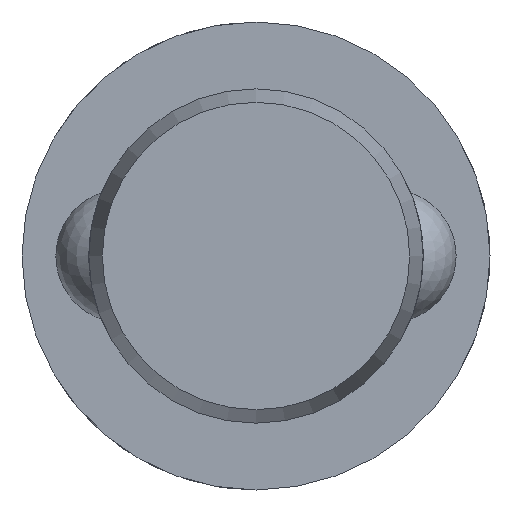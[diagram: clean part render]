
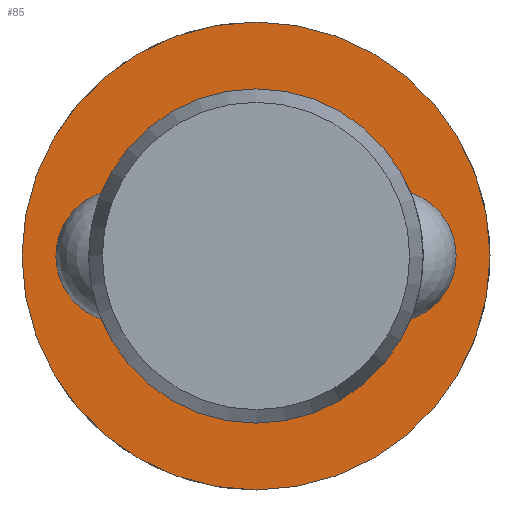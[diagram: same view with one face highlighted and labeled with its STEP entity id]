
A CAD part, left-side view. The second image highlights one B-rep face of the part: STEP entity #85.
In plain terms, the highlighted planar face has unit normal (-1, 0, 0).
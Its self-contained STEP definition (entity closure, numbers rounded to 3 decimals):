
#85 = ADVANCED_FACE( '', ( #130, #131 ), #132, .F. );
#130 = FACE_OUTER_BOUND( '', #200, .T. );
#131 = FACE_BOUND( '', #201, .T. );
#132 = PLANE( '', #202 );
#200 = EDGE_LOOP( '', ( #315 ) );
#201 = EDGE_LOOP( '', ( #316 ) );
#202 = AXIS2_PLACEMENT_3D( '', #317, #318, #319 );
#315 = ORIENTED_EDGE( '', *, *, #458, .F. );
#316 = ORIENTED_EDGE( '', *, *, #455, .T. );
#317 = CARTESIAN_POINT( '', ( 44.6, 5., 0. ) );
#318 = DIRECTION( '', ( 1., 0., 0. ) );
#319 = DIRECTION( '', ( 0., 0., -1. ) );
#455 = EDGE_CURVE( '', #528, #528, #529, .T. );
#458 = EDGE_CURVE( '', #534, #534, #535, .T. );
#528 = VERTEX_POINT( '', #732 );
#529 = CIRCLE( '', #733, 5. );
#534 = VERTEX_POINT( '', #844 );
#535 = CIRCLE( '', #845, 7. );
#732 = CARTESIAN_POINT( '', ( 44.6, 0., -5. ) );
#733 = AXIS2_PLACEMENT_3D( '', #922, #923, #924 );
#844 = CARTESIAN_POINT( '', ( 44.6, 0., -7. ) );
#845 = AXIS2_PLACEMENT_3D( '', #925, #926, #927 );
#922 = CARTESIAN_POINT( '', ( 44.6, 0., 0. ) );
#923 = DIRECTION( '', ( 1., 0., 0. ) );
#924 = DIRECTION( '', ( 0., 0., -1. ) );
#925 = CARTESIAN_POINT( '', ( 44.6, 0., 0. ) );
#926 = DIRECTION( '', ( 1., 0., 0. ) );
#927 = DIRECTION( '', ( 0., 0., -1. ) );
